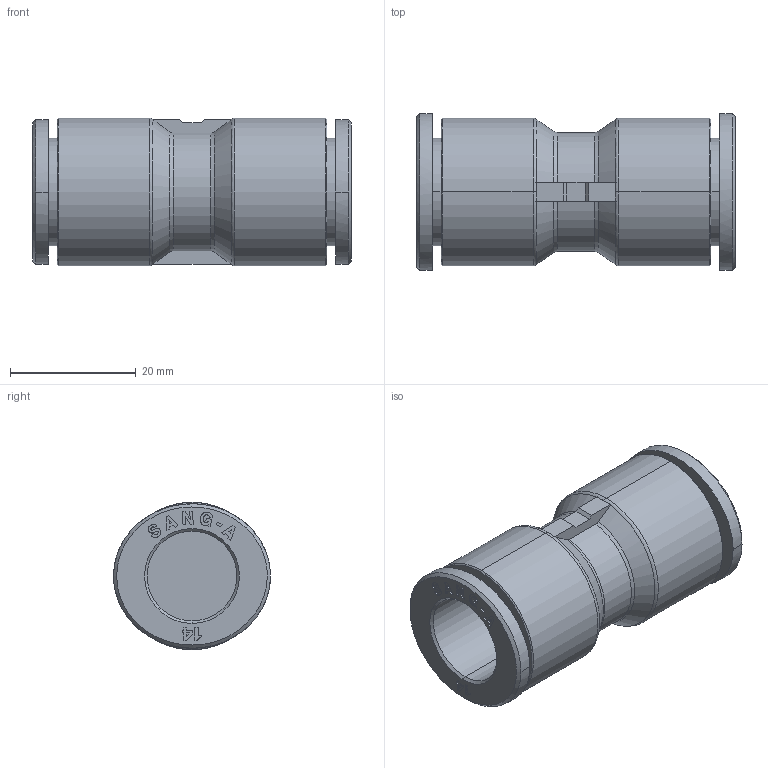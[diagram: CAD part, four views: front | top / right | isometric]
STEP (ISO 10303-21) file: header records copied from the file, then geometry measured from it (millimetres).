
FILE_DESCRIPTION((''),'2;1');
FILE_NAME('GPUC 14(3D).stp','2012-12-27T14:41:01',(''),(''),'Mechanical Desktop.R8.0.24.0','Mechanical Desktop.R8.0.24.0',', , ');
FILE_SCHEMA(('CONFIG_CONTROL_DESIGN'));
Length unit declared in the file: millimetre
Products named in the file (2): GPUC 14(3D); 睡ヶ1
Assembly tree (1 placements, depth 2):
  GPUC 14(3D)
    睡ヶ1
Bounding box: 50.8 x 25 x 23.5 mm (x, y, z)
Volume: 12304.1 mm3; surface area: 7619.2 mm2
Topology: 1 solids, 1 shells, 338 faces, 906 edges, 598 vertices
Faces by surface type: plane 220, bspline 62, cylinder 32, cone 20, torus 4
Entity records: 12235 total; most frequent: CARTESIAN_POINT 3822, ORIENTED_EDGE 1812, DIRECTION 1614, EDGE_CURVE 906, VECTOR 658, LINE 658, VERTEX_POINT 598, AXIS2_PLACEMENT_3D 478
